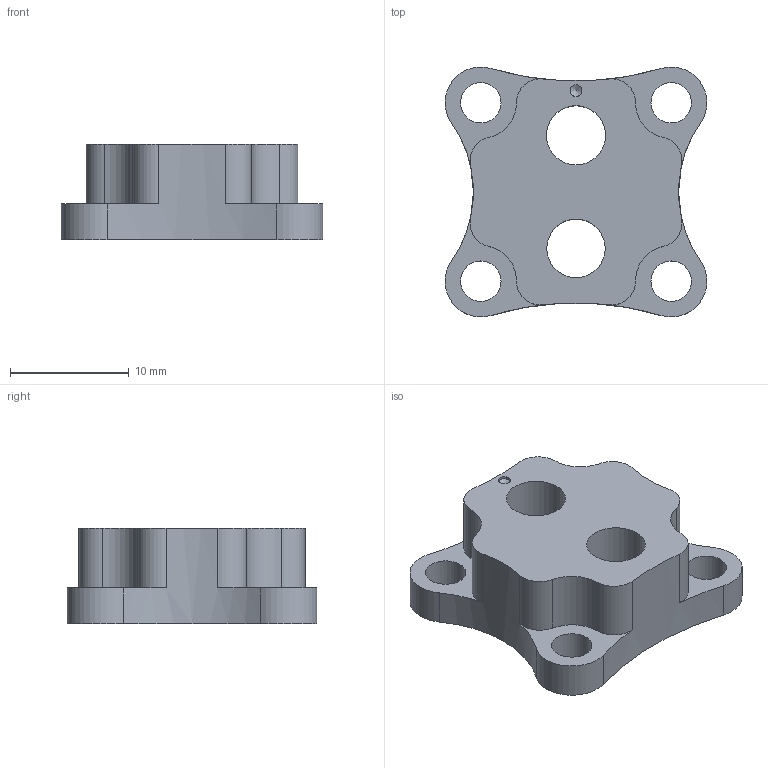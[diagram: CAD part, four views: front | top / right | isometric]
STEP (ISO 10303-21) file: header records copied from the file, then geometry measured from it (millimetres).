
FILE_DESCRIPTION(/* description */ ('Tripod Adapter'),/* implementation_level */ '2;1');
FILE_NAME(/* name */ 'KSM_154-13-1-00-03_Tripod Adapter.stp',/* time_stamp */ '2026-06-21T20:06:39+02:00',/* author */ ('khw'),/* organization */ ('TIS/ Germany'),/* preprocessor_version */ 'ST-DEVELOPER v20',/* originating_system */ 'Autodesk Inventor 2025',/* authorisation */ '6767,5 mm^3');
FILE_SCHEMA (('AUTOMOTIVE_DESIGN { 1 0 10303 214 3 1 1 }'));
Length unit declared in the file: millimetre
Products named in the file (1): KSM_154-13-1-00-03_Tripod Adapter
Bounding box: 21.99 x 21 x 8 mm (x, y, z)
Volume: 2041 mm3; surface area: 1564.7 mm2
Topology: 1 solids, 1 shells, 34 faces, 95 edges, 63 vertices
Faces by surface type: cylinder 27, plane 6, cone 1
Full cylindrical faces by diameter (mm): 1 x1, 3.4 x4, 4.917 x1, 4.978 x1
Entity records: 1195 total; most frequent: DIRECTION 226, CARTESIAN_POINT 192, ORIENTED_EDGE 188, AXIS2_PLACEMENT_3D 97, EDGE_CURVE 94, VERTEX_POINT 63, CIRCLE 62, EDGE_LOOP 47
